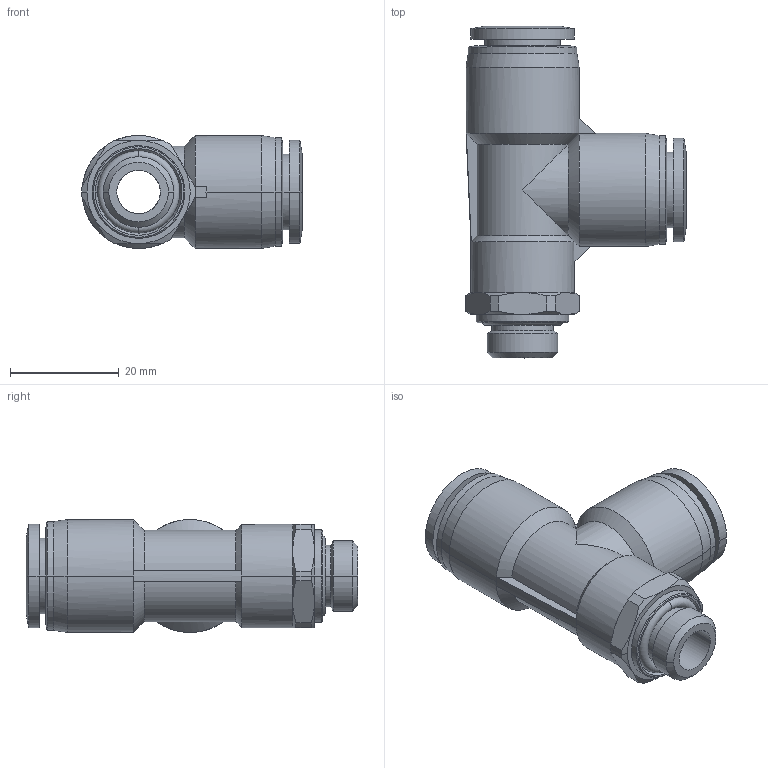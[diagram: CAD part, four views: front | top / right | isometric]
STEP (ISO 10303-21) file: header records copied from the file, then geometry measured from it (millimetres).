
FILE_DESCRIPTION (( 'STEP AP203' ), '1' );
FILE_NAME ('FLT12-02.STEP', '2020-05-12T14:19:04', ( '' ), ( '' ), 'SwSTEP 2.0', 'SolidWorks 2019', '' );
FILE_SCHEMA (( 'CONFIG_CONTROL_DESIGN' ));
Length unit declared in the file: millimetre
Products named in the file (1): FLT12-02
Bounding box: 40.65 x 61.05 x 20.78 mm (x, y, z)
Surface area: 9238.7 mm2 (no closed solid volume)
Topology: 0 solids, 4 shells, 122 faces, 295 edges, 184 vertices
Faces by surface type: cylinder 46, cone 40, plane 27, bspline 5, torus 4
Entity records: 6221 total; most frequent: CARTESIAN_POINT 3807, ORIENTED_EDGE 574, DIRECTION 303, EDGE_CURVE 295, B_SPLINE_CURVE_WITH_KNOTS 220, VERTEX_POINT 184, EDGE_LOOP 135, FACE_OUTER_BOUND 122
